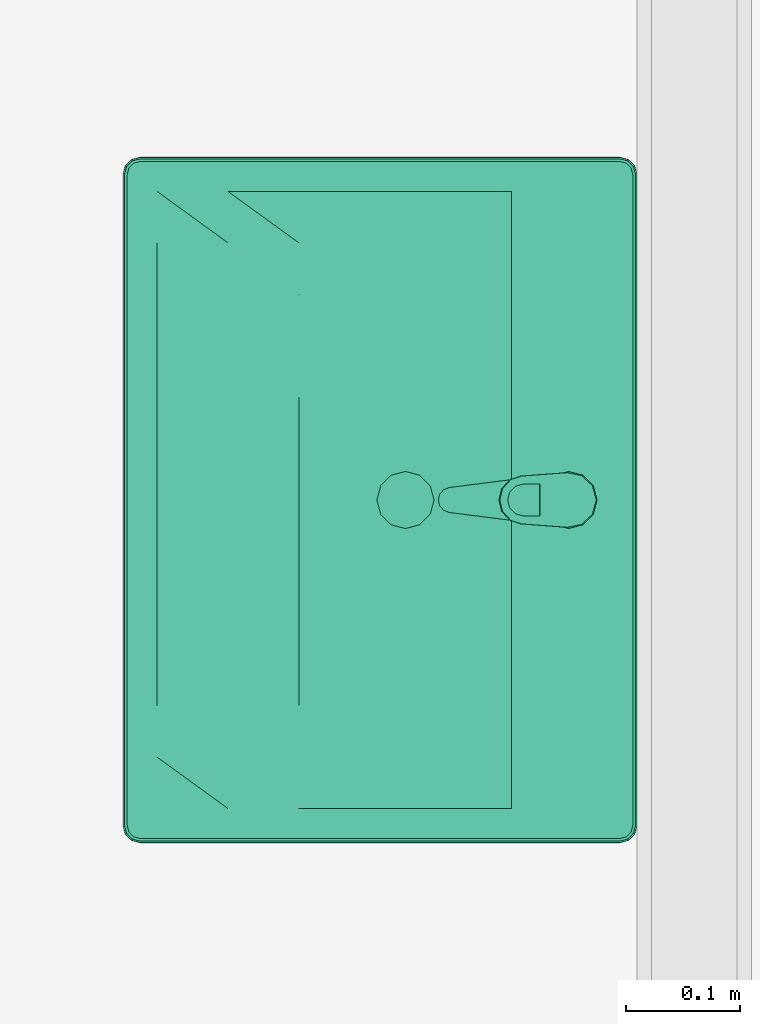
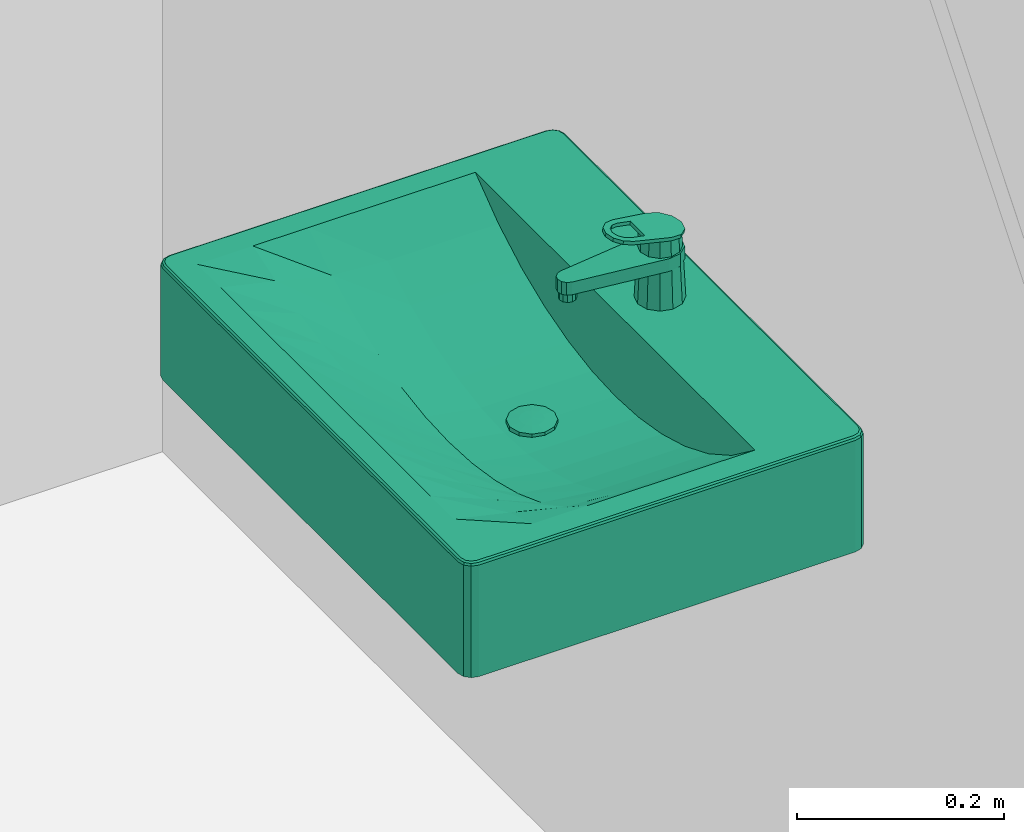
# One storey, part 96 of 117: 1 flow controller.
"""IFC2X3 building model written with IfcOpenShell, lengths in millimetres."""

import ifcopenshell
import ifcopenshell.guid

model = None  # the IFC model being written
_history = None  # IfcOwnerHistory: only IFC2X3 demands one
_inside = {}  # id of a spatial element -> (the spatial element, [elements in it])
_under = {}  # id of a project, library or spatial element -> (it, [spatial elements below it])
_declared = {}  # id of a project -> (the project, [libraries it declares])
_typed = {}  # id of a type object -> (the type object, [elements of that type])
_made_of = {}  # id of a material, layer set ... -> (it, [elements and type objects made of it])


def new_model(schema):
    """Start an empty IFC model of exactly this schema.

    Asked for "IFC4X3", IfcOpenShell would pick the latest addendum, in which some entities
    have other attributes; the version numbers below select the first issue.
    IFC2X3 requires an IfcOwnerHistory on every rooted entity: one is made here for all.
    """
    global model, _history
    if schema == "IFC4X3":
        model = ifcopenshell.file(schema_version=(4, 3, 0, 0))
    else:
        model = ifcopenshell.file(schema=schema)
    _inside.clear()
    _under.clear()
    _declared.clear()
    _typed.clear()
    _made_of.clear()
    _history = None
    if model.schema == "IFC2X3":
        org = make("IfcOrganization", Name="unknown")
        user = make(
            "IfcPersonAndOrganization",
            ThePerson=make("IfcPerson", FamilyName="unknown"),
            TheOrganization=org,
        )
        app = make(
            "IfcApplication",
            ApplicationDeveloper=org,
            Version="unknown",
            ApplicationFullName="unknown",
            ApplicationIdentifier="unknown",
        )
        _history = make(
            "IfcOwnerHistory",
            OwningUser=user,
            OwningApplication=app,
            ChangeAction="ADDED",
            CreationDate=0,
        )
    return model


def make(cls, **values):
    """One entity of the class cls with the attributes given. An attribute that is None is left unset."""
    return model.create_entity(
        cls, **{name: value for name, value in values.items() if value is not None}
    )


def entity(cls, *values):
    """Any entity or typed value of the class cls, its attributes in the order of the schema. None: left unset."""
    e = model.create_entity(cls)
    for i, value in enumerate(values):
        if value is not None:
            e[i] = value
    return e


def rooted(cls, **values):
    """An entity with a GlobalId (a new one), such as an element, a storey or a relation."""
    return make(cls, GlobalId=ifcopenshell.guid.new(), OwnerHistory=_history, **values)


def si_unit(unit_type, name, prefix=None):
    """IfcSIUnit, for example si_unit("LENGTHUNIT", "METRE", prefix="MILLI")."""
    return make("IfcSIUnit", UnitType=unit_type, Prefix=prefix, Name=name)


def converted_unit(unit_type, name, factor, base, dimensions=None, offset=None):
    """IfcConversionBasedUnit, such as the inch: factor (a typed value) times the base unit."""
    return make(
        "IfcConversionBasedUnit"
        if offset is None
        else "IfcConversionBasedUnitWithOffset",
        ConversionOffset=offset,
        Dimensions=None
        if dimensions is None
        else entity("IfcDimensionalExponents", *dimensions),
        UnitType=unit_type,
        Name=name,
        ConversionFactor=make(
            "IfcMeasureWithUnit", ValueComponent=factor, UnitComponent=base
        ),
    )


def derived_unit(unit_type, elements):
    """IfcDerivedUnit: a product of units, each with its exponent."""
    return make(
        "IfcDerivedUnit",
        Elements=[
            make("IfcDerivedUnitElement", Unit=unit, Exponent=power)
            for unit, power in elements
        ],
        UnitType=unit_type,
    )


def money_unit(currency):
    """IfcMonetaryUnit."""
    return make("IfcMonetaryUnit", Currency=currency)


def assignment(units):
    """IfcUnitAssignment: the units of a project."""
    return None if units is None else make("IfcUnitAssignment", Units=units)


def point(xyz):
    """IfcCartesianPoint."""
    return None if xyz is None else make("IfcCartesianPoint", Coordinates=xyz)


def direction(xyz):
    """IfcDirection."""
    return None if xyz is None else make("IfcDirection", DirectionRatios=xyz)


def frame(location, z_axis=None, x_axis=None):
    """IfcAxis2Placement3D, a coordinate frame: its origin and axes. An axis left out is left unset."""
    return make(
        "IfcAxis2Placement3D",
        Location=point(location),
        Axis=direction(z_axis),
        RefDirection=direction(x_axis),
    )


def origin_with_axes():
    """The frame at (0, 0, 0) with the z axis (0, 0, 1) and the x axis (1, 0, 0) written out."""
    return frame((0.0, 0.0, 0.0), z_axis=(0.0, 0.0, 1.0), x_axis=(1.0, 0.0, 0.0))


def place(relative_to, where):
    """IfcLocalPlacement: puts the frame where relative to a parent placement (None: the world)."""
    return make(
        "IfcLocalPlacement", PlacementRelTo=relative_to, RelativePlacement=where
    )


def context(
    kind, dimensions, precision=None, world=None, true_north=None, identifier=None
):
    """IfcGeometricRepresentationContext, for example the 3D "Model" context."""
    return make(
        "IfcGeometricRepresentationContext",
        ContextIdentifier=identifier,
        ContextType=kind,
        CoordinateSpaceDimension=dimensions,
        Precision=precision,
        WorldCoordinateSystem=world,
        TrueNorth=true_north,
    )


def subcontext(parent, identifier, kind, view, scale=None):
    """IfcGeometricRepresentationSubContext, for example "Body" below "Model"."""
    return make(
        "IfcGeometricRepresentationSubContext",
        ContextIdentifier=identifier,
        ContextType=kind,
        ParentContext=parent,
        TargetScale=scale,
        TargetView=view,
    )


def project(units=None, contexts=None):
    """IfcProject with its units and contexts."""
    return rooted(
        "IfcProject",
        Name="project",
        RepresentationContexts=contexts,
        UnitsInContext=assignment(units),
    )


def spatial(cls, under=None, at=None, **own):
    """A site, building, storey or space (cls), placed at a placement, below another one or the project."""
    s = rooted(cls, ObjectPlacement=at, **own)
    if under is not None:
        _under.setdefault(under.id(), (under, []))[1].append(s)
    return s


def faces_of(points, faces, orient=None, outer=None):
    """IfcFace entities. A face is a list of loops; a loop is a list of indices into points, from 0.

    orient and outer hold one flag for each loop. By default every Orientation is true, the
    first loop of a face is its IfcFaceOuterBound and the others are IfcFaceBound.
    """
    made = []
    for i, loops in enumerate(faces):
        bounds = []
        for j, loop in enumerate(loops):
            is_outer = j == 0 if outer is None else outer[i][j]
            bounds.append(
                make(
                    "IfcFaceOuterBound" if is_outer else "IfcFaceBound",
                    Bound=make("IfcPolyLoop", Polygon=[points[k] for k in loop]),
                    Orientation=True if orient is None else orient[i][j],
                )
            )
        made.append(make("IfcFace", Bounds=bounds))
    return made


def open_shell(faces, orient=None, outer=None):
    """The faces of one IfcOpenShell. surface_model builds it on its shared points."""
    return ("IfcOpenShell", faces, orient, outer)


def faceted_brep(points, faces, orient=None, outer=None, voids=None):
    """IfcFacetedBrep: a solid bounded by flat faces; with voids (closed shells), ...WithVoids."""
    shared = [point(p) for p in points]
    hull = make("IfcClosedShell", CfsFaces=faces_of(shared, faces, orient, outer))
    if voids is None:
        return make("IfcFacetedBrep", Outer=hull)
    return make(
        "IfcFacetedBrepWithVoids",
        Outer=hull,
        Voids=[
            make(cls, CfsFaces=faces_of(shared, fs, o, b)) for cls, fs, o, b in voids
        ],
    )


def surface_model(cls, points, shells):
    """IfcFaceBasedSurfaceModel or IfcShellBasedSurfaceModel (cls): surfaces that need not close."""
    shared = [point(p) for p in points]
    made = [make(c, CfsFaces=faces_of(shared, fs, o, b)) for c, fs, o, b in shells]
    if cls == "IfcFaceBasedSurfaceModel":
        return make(cls, FbsmFaces=made)
    return make(cls, SbsmBoundary=made)


def shape(context_of_items, identifier, shape_type, items):
    """IfcShapeRepresentation: the items that make up one representation, for example the "Body"."""
    return make(
        "IfcShapeRepresentation",
        ContextOfItems=context_of_items,
        RepresentationIdentifier=identifier,
        RepresentationType=shape_type,
        Items=items,
    )


def source(mapping_origin, context_of_items, identifier, shape_type, items):
    """IfcRepresentationMap: a shape defined once, which mapped items show again and again."""
    return make(
        "IfcRepresentationMap",
        MappingOrigin=mapping_origin,
        MappedRepresentation=shape(context_of_items, identifier, shape_type, items),
    )


def transform(
    local_origin,
    x_axis=None,
    y_axis=None,
    z_axis=None,
    scale=None,
    scale2=None,
    scale3=None,
    uniform=True,
):
    """IfcCartesianTransformationOperator3D, or its non-uniform kind. x_axis, y_axis, z_axis: its Axis1, 2, 3."""
    if uniform:
        return make(
            "IfcCartesianTransformationOperator3D",
            Axis1=direction(x_axis),
            Axis2=direction(y_axis),
            LocalOrigin=point(local_origin),
            Scale=scale,
            Axis3=direction(z_axis),
        )
    return make(
        "IfcCartesianTransformationOperator3DnonUniform",
        Axis1=direction(x_axis),
        Axis2=direction(y_axis),
        LocalOrigin=point(local_origin),
        Scale=scale,
        Axis3=direction(z_axis),
        Scale2=scale2,
        Scale3=scale3,
    )


def mapped(mapping_source, mapping_target):
    """IfcMappedItem: shows the shape of a source again, moved by a transform."""
    return make(
        "IfcMappedItem", MappingSource=mapping_source, MappingTarget=mapping_target
    )


def made_of(thing, what):
    """Note that an element or type object is made of a material, layer set ...; save() writes the relation."""
    if what is not None:
        _made_of.setdefault(what.id(), (what, []))[1].append(thing)
    return thing


def type_object(cls, material=None, **own):
    """A type object (cls), such as IfcWallType, which elements share."""
    return made_of(rooted(cls, **own), material)


def type_shapes(of_type, sources):
    """Give a type object the sources (RepresentationMaps) that its elements show as mapped items."""
    of_type.RepresentationMaps = sources


def element(
    cls,
    number,
    at=None,
    inside=None,
    cuts=None,
    type_object=None,
    material=None,
    context=None,
    identifier="Body",
    shape_type=None,
    held_by="IfcProductDefinitionShape",
    body=None,
    shapes=None,
    **own,
):
    """One element of the class cls, such as IfcWall. Its Tag is "e" and its number.

    at: its placement. inside: the storey or other place that contains it. cuts: it is an
    opening in that element (IfcRelVoidsElement). A single representation is given by context,
    identifier, shape_type and body (its items); several are given by shapes. held_by: the class
    of the entity that holds the representations. save() writes the other relations.
    """
    e = rooted(cls, Tag="e%d" % number, ObjectPlacement=at, **own)
    if body is not None:
        shapes = [shape(context, identifier, shape_type, body)]
    if shapes is not None:
        e.Representation = make(held_by, Representations=shapes)
    if inside is not None:
        _inside.setdefault(inside.id(), (inside, []))[1].append(e)
    if cuts is not None:
        rooted(
            "IfcRelVoidsElement", RelatingBuildingElement=cuts, RelatedOpeningElement=e
        )
    if type_object is not None:
        _typed.setdefault(type_object.id(), (type_object, []))[1].append(e)
    return made_of(e, material)


def aggregate(whole, parts):
    """IfcRelAggregates: a whole, such as a stair, and the parts it consists of."""
    return rooted("IfcRelAggregates", RelatingObject=whole, RelatedObjects=parts)


def save(model, path):
    """Write the relations noted so far, then the file.

    IfcRelAggregates (storeys below a building ...), IfcRelContainedInSpatialStructure (elements
    in a storey), IfcRelDefinesByType, IfcRelAssociatesMaterial and IfcRelDeclares: one each for
    every whole, place, type object, material and project.
    """
    for whole, parts in _under.values():
        aggregate(whole, parts)
    for where, things in _inside.values():
        rooted(
            "IfcRelContainedInSpatialStructure",
            RelatedElements=things,
            RelatingStructure=where,
        )
    for kind, things in _typed.values():
        rooted("IfcRelDefinesByType", RelatedObjects=things, RelatingType=kind)
    for what, things in _made_of.values():
        rooted("IfcRelAssociatesMaterial", RelatedObjects=things, RelatingMaterial=what)
    for by, libraries in _declared.values():
        rooted("IfcRelDeclares", RelatingContext=by, RelatedDefinitions=libraries)
    model.write(path)


model = new_model("IFC2X3")

# Units and contexts
model_context = context("Model", 3, precision=0.01, world=origin_with_axes(), true_north=direction((0.0, 1.0)))
body_context = subcontext(model_context, "Body", "Model", "MODEL_VIEW")
ifc_project = project(units=[si_unit("LENGTHUNIT", "METRE", prefix="MILLI"), si_unit("AREAUNIT", "SQUARE_METRE"), si_unit("VOLUMEUNIT", "CUBIC_METRE"), converted_unit("PLANEANGLEUNIT", "DEGREE", entity("IfcPlaneAngleMeasure", 0.0174532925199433), si_unit("PLANEANGLEUNIT", "RADIAN"), dimensions=[0, 0, 0, 0, 0, 0, 0]), money_unit("EUR"), converted_unit("TIMEUNIT", "Year", entity("IfcTimeMeasure", 31557600.0), si_unit("TIMEUNIT", "SECOND"), dimensions=[0, 0, 1, 0, 0, 0, 0]), si_unit("MASSUNIT", "GRAM", prefix="KILO"), si_unit("THERMODYNAMICTEMPERATUREUNIT", "DEGREE_CELSIUS"), si_unit("LUMINOUSINTENSITYUNIT", "LUMEN"), si_unit("ENERGYUNIT", "JOULE", prefix="MEGA"), derived_unit("THERMALCONDUCTANCEUNIT", [(si_unit("POWERUNIT", "WATT"), 1), (si_unit("LENGTHUNIT", "METRE"), -1), (si_unit("THERMODYNAMICTEMPERATUREUNIT", "KELVIN"), -1)]), derived_unit("SPECIFICHEATCAPACITYUNIT", [(si_unit("ENERGYUNIT", "JOULE"), 1), (si_unit("MASSUNIT", "GRAM", prefix="KILO"), -1), (si_unit("THERMODYNAMICTEMPERATUREUNIT", "KELVIN"), -1)]), derived_unit("MASSDENSITYUNIT", [(si_unit("MASSUNIT", "GRAM", prefix="KILO"), 1), (si_unit("VOLUMEUNIT", "CUBIC_METRE"), -1)])], contexts=[model_context])

# Site, building, storey
site_placement = place(None, origin_with_axes())
site = spatial("IfcSite", under=ifc_project, at=site_placement, Name="Site", CompositionType="ELEMENT")
building_placement = place(site_placement, origin_with_axes())
building = spatial("IfcBuilding", under=site, at=building_placement, Name="Naam gebouw", CompositionType="ELEMENT")
storey_placement = place(building_placement, frame((0.0, 0.0, 4150.0), z_axis=(0.0, 0.0, 1.0), x_axis=(1.0, 0.0, 0.0)))
storey = spatial("IfcBuildingStorey", under=building, at=storey_placement, Name="1e verdieping N", CompositionType="ELEMENT", Elevation=4150.0)

# Flow controller
valve_type = type_object("IfcValveType", Name="Wasbak 27", PredefinedType="NOTDEFINED")
shared_shape = source(origin_with_axes(), body_context, "Body", "SurfaceModel", [
    faceted_brep([(285.0, -450.0, 865.0), (-285.0, -450.0, 865.0), (-292.5, -447.9903810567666, 865.0), (-297.9903810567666, -442.5, 865.0), (-300.0, -435.0, 865.0), (-300.0, -15.00000000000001, 865.0), (-297.9903810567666, -7.500000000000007, 865.0), (-292.5, -2.009618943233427, 865.0), (-285.0, 0.0, 865.0), (285.0, 0.0, 865.0), (292.5, -2.009618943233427, 865.0), (297.9903810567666, -7.500000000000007, 865.0), (300.0, -15.00000000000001, 865.0), (300.0, -435.0, 865.0), (297.9903810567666, -442.5, 865.0), (292.5, -447.9903810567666, 865.0), (-270.0, -420.0000000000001, 865.0), (270.0, -420.0000000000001, 865.0), (270.0, -110.0, 865.0), (-270.0, -110.0, 865.0), (284.9999995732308, -450.0000003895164, 995.0), (-284.9999997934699, -450.0000003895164, 995.0), (-292.5000000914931, -447.9903813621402, 995.0), (-297.9903813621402, -442.5000000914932, 995.0), (-300.0000003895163, -434.99999979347, 995.0), (-300.0000003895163, -14.99999986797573, 995.0), (-297.9903813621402, -7.499999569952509, 995.0), (-292.5000000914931, -2.009619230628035, 995.0), (-284.9999997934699, -2.032518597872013e-07, 995.0), (284.9999995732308, -2.032518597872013e-07, 995.0), (292.499999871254, -2.009619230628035, 995.0), (297.990381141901, -7.499999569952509, 995.0), (300.0000001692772, -14.99999986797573, 995.0), (300.0000001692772, -434.99999979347, 995.0), (297.990381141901, -442.5000000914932, 995.0), (292.499999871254, -447.9903813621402, 995.0), (-270.0, -420.0000000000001, 999.9999996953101), (270.0, -420.0000000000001, 999.9999996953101), (270.0, -110.0, 999.9999996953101), (-270.0, -110.0, 999.9999996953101), (284.9775698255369, -449.8296295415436, 996.2940952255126), (-284.9775700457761, -449.8296295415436, 996.2940952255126), (-292.4118096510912, -447.8376310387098, 996.2940952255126), (-297.8376310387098, -442.4118096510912, 996.2940952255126), (-299.8296295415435, -434.9775700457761, 996.2940952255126), (-299.8296295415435, -15.02242961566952, 996.2940952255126), (-297.8376310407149, -7.588190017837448, 996.2940952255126), (-292.4118096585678, -2.16236955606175, 996.2940952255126), (-284.9775700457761, -0.1703710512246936, 996.2940952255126), (284.9775698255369, -0.1703710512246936, 996.2940952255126), (292.4118094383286, -2.16236955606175, 996.2940952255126), (297.8376308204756, -7.588190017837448, 996.2940952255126), (299.8296293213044, -15.02242961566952, 996.2940952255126), (299.8296293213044, -434.9775700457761, 996.2940952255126), (297.8376308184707, -442.4118096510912, 996.2940952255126), (292.411809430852, -447.8376310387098, 996.2940952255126), (-284.3417376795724, -4.999997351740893, 999.9999996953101), (-289.911811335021, -6.492494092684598, 999.9999996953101), (-293.5075066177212, -10.08818876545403, 999.9999996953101), (-295.0000032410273, -15.6582619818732, 999.9999996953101), (-295.0000032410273, -434.3417376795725, 999.9999996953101), (-293.5075065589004, -439.9118111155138, 999.9999996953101), (-289.9118111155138, -443.5075065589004, 999.9999996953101), (-284.3417376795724, -445.0000032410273, 999.9999996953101), (284.3417374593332, -445.0000032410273, 999.9999996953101), (289.9118108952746, -443.5075065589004, 999.9999996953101), (293.5075063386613, -439.9118111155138, 999.9999996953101), (295.0000030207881, -434.3417376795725, 999.9999996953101), (295.0000030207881, -15.6582619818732, 999.9999996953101), (293.507506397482, -10.08818876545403, 999.9999996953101), (289.9118111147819, -6.492494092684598, 999.9999996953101), (284.3417374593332, -4.999997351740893, 999.9999996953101), (284.8071989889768, -448.5355345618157, 998.5355339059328), (-284.8071992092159, -448.5355345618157, 998.5355339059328), (-291.7419367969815, -446.6773772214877, 998.5355339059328), (-296.6773772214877, -441.7419367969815, 998.5355339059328), (-298.5355345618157, -434.807199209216, 998.5355339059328), (-298.5355345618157, -15.1928004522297, 998.5355339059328), (-296.6773772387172, -8.258062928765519, 998.5355339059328), (-291.7419368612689, -3.322623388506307, 998.5355339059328), (-284.8071992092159, -1.464466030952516, 998.5355339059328), (284.8071989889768, -1.464466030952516, 998.5355339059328), (291.7419366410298, -3.322623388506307, 998.5355339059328), (296.677377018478, -8.258062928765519, 998.5355339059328), (298.5355343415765, -15.1928004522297, 998.5355339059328), (298.5355343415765, -434.807199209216, 998.5355339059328), (296.6773770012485, -441.7419367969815, 998.5355339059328), (291.7419365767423, -446.6773772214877, 998.5355339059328), (-290.5816830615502, -5.332242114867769, 999.8296291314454), (-284.5121082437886, -3.705904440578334, 999.8296291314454), (-294.6677585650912, -9.418316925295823, 999.8296291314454), (-296.2940961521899, -15.487891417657, 999.8296291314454), (-296.2940961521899, -434.5121082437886, 999.8296291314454), (-294.6677585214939, -440.5816828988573, 999.8296291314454), (-290.5816828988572, -444.6677585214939, 999.8296291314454), (-284.5121082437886, -446.2940961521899, 999.8296291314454), (284.5121080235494, -446.2940961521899, 999.8296291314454), (290.5816826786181, -444.6677585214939, 999.8296291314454), (294.6677583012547, -440.5816828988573, 999.8296291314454), (296.2940959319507, -434.5121082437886, 999.8296291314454), (296.2940959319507, -15.487891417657, 999.8296291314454), (294.667758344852, -9.418316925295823, 999.8296291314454), (290.581682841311, -5.332242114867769, 999.8296291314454), (284.5121080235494, -3.705904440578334, 999.8296291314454)], [[[0, 1, 2, 3, 4, 5, 6, 7, 8, 9, 10, 11, 12, 13, 14, 15], [16, 17, 18, 19]], [[0, 20, 21, 1]], [[1, 21, 22, 2]], [[2, 22, 23, 3]], [[3, 23, 24, 4]], [[4, 24, 25, 5]], [[5, 25, 26, 6]], [[6, 26, 27, 7]], [[7, 27, 28, 8]], [[8, 28, 29, 9]], [[9, 29, 30, 10]], [[10, 30, 31, 11]], [[11, 31, 32, 12]], [[12, 32, 33, 13]], [[13, 33, 34, 14]], [[14, 34, 35, 15]], [[15, 35, 20, 0]], [[36, 37, 17, 16]], [[37, 38, 18, 17]], [[38, 39, 19, 18]], [[39, 36, 16, 19]], [[20, 40, 41, 21]], [[21, 41, 42, 22]], [[22, 42, 43, 23]], [[23, 43, 44, 24]], [[24, 44, 45, 25]], [[25, 45, 46, 26]], [[26, 46, 47, 27]], [[27, 47, 48, 28]], [[28, 48, 49, 29]], [[29, 49, 50, 30]], [[30, 50, 51, 31]], [[31, 51, 52, 32]], [[32, 52, 53, 33]], [[33, 53, 54, 34]], [[34, 54, 55, 35]], [[35, 55, 40, 20]], [[56, 57, 58, 59, 60, 61, 62, 63, 64, 65, 66, 67, 68, 69, 70, 71], [36, 39, 38, 37]], [[40, 72, 73, 41]], [[41, 73, 74, 42]], [[42, 74, 75, 43]], [[43, 75, 76, 44]], [[44, 76, 77, 45]], [[45, 77, 78, 46]], [[46, 78, 79, 47]], [[47, 79, 80, 48]], [[48, 80, 81, 49]], [[49, 81, 82, 50]], [[50, 82, 83, 51]], [[51, 83, 84, 52]], [[52, 84, 85, 53]], [[53, 85, 86, 54]], [[54, 86, 87, 55]], [[55, 87, 72, 40]], [[88, 57, 56, 89]], [[90, 58, 57, 88]], [[91, 59, 58, 90]], [[92, 60, 59, 91]], [[93, 61, 60, 92]], [[94, 62, 61, 93]], [[95, 63, 62, 94]], [[96, 64, 63, 95]], [[97, 65, 64, 96]], [[98, 66, 65, 97]], [[99, 67, 66, 98]], [[100, 68, 67, 99]], [[101, 69, 68, 100]], [[102, 70, 69, 101]], [[103, 71, 70, 102]], [[89, 56, 71, 103]], [[72, 96, 95, 73]], [[73, 95, 94, 74]], [[74, 94, 93, 75]], [[75, 93, 92, 76]], [[76, 92, 91, 77]], [[77, 91, 90, 78]], [[78, 90, 88, 79]], [[79, 88, 89, 80]], [[80, 89, 103, 81]], [[81, 103, 102, 82]], [[82, 102, 101, 83]], [[83, 101, 100, 84]], [[84, 100, 99, 85]], [[85, 99, 98, 86]], [[86, 98, 97, 87]], [[87, 97, 96, 72]]]),
    faceted_brep([(-270.0, -420.0000000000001, 865.0), (-270.0, -110.0, 865.0), (270.0, -110.0, 865.0), (270.0, -420.0000000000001, 865.0), (12.49999999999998, -224.368635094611, 865.0), (21.65063509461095, -215.218, 865.0), (25.0, -202.718, 865.0), (21.65063509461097, -190.218, 865.0), (12.50000000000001, -181.067364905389, 865.0), (0.0, -177.718, 865.0), (-12.49999999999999, -181.067364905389, 865.0), (-21.65063509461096, -190.218, 865.0), (-25.0, -202.718, 865.0), (-21.65063509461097, -215.218, 865.0), (-12.50000000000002, -224.368635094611, 865.0), (0.0, -227.718, 865.0), (-270.0, -296.0000000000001, 1000.0), (-270.0, -234.0, 1000.0), (-270.0, -172.0, 1000.0), (-270.0, -110.0, 1000.0), (-270.0, -420.0000000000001, 1000.0), (-270.0, -358.0000000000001, 1000.0), (135.0, -110.0, 922.6004593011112), (180.0000000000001, -110.0, 941.1231796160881), (225.0, -110.0, 966.3832810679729), (270.0, -110.0, 1000.0), (-225.0, -110.0, 966.3832810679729), (-180.0, -110.0, 941.1231796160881), (-135.0, -110.0, 922.6004593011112), (-90.0, -110.0, 909.8887668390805), (-44.99999999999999, -110.0, 902.449942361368), (0.0, -110.0, 900.0), (45.00000000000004, -110.0, 902.449942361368), (90.00000000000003, -110.0, 909.8887668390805), (270.0, -234.0, 1000.0), (270.0, -296.0000000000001, 999.9999999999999), (270.0, -358.0000000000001, 1000.0), (270.0, -420.0000000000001, 1000.0), (270.0, -172.0, 1000.0), (-135.0, -420.0000000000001, 1000.0), (-180.0, -420.0000000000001, 1000.0), (-225.0, -420.0000000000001, 1000.0), (225.0, -420.0000000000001, 1000.0), (180.0000000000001, -420.0000000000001, 1000.0), (135.0, -420.0000000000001, 1000.0), (90.00000000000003, -420.0000000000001, 1000.0), (45.00000000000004, -420.0000000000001, 1000.0), (0.0, -420.0000000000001, 1000.0), (-44.99999999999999, -420.0000000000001, 1000.0), (-90.0, -420.0000000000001, 1000.0), (12.49999999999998, -224.368635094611, 900.6805395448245), (21.65063509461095, -215.218, 901.1787290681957), (25.0, -202.718, 901.3610790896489), (21.65063509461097, -190.218, 901.1787290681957), (12.50000000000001, -181.067364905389, 900.6805395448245), (0.0, -177.718, 900.0), (-12.49999999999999, -181.067364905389, 900.6805395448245), (-21.65063509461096, -190.218, 901.1787290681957), (-25.0, -202.718, 901.3610790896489), (-21.65063509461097, -215.218, 901.1787290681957), (-12.50000000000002, -224.368635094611, 900.6805395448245), (0.0, -227.718, 900.0), (-225.0, -234.0, 966.3832810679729), (-225.0, -172.0, 966.3832810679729), (-225.0, -358.0000000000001, 985.9168845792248), (-225.0, -296.0000000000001, 970.8433791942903), (180.0000000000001, -172.0, 941.1231796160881), (135.0, -172.0, 922.6004593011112), (225.0, -172.0, 966.3832810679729), (-180.0, -172.0, 941.1231796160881), (-135.0, -172.0, 922.6004593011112), (-90.0, -172.0, 909.8887668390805), (-44.99999999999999, -172.0, 902.449942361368), (0.0, -172.0, 900.0), (45.00000000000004, -172.0, 902.449942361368), (90.00000000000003, -172.0, 909.8887668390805), (225.0, -296.0000000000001, 970.8433791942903), (225.0, -358.0000000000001, 985.9168845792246), (225.0, -234.0, 966.3832810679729), (-135.0, -358.0000000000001, 965.8650987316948), (-180.0, -358.0000000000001, 974.5766150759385), (180.0000000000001, -358.0000000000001, 974.5766150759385), (135.0, -358.0000000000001, 965.8650987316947), (90.00000000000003, -358.0000000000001, 959.6989661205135), (45.00000000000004, -358.0000000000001, 956.0213334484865), (0.0, -358.0000000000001, 954.7990813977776), (-44.99999999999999, -358.0000000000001, 956.0213334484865), (-90.0, -358.0000000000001, 959.6989661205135), (0.0, -234.0, 900.0), (45.00000000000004, -234.0, 902.449942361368), (-44.99999999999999, -234.0, 902.449942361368), (-180.0, -234.0, 941.1231796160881), (180.0000000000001, -234.0, 941.1231796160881), (135.0, -234.0, 922.6004593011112), (-135.0, -234.0, 922.6004593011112), (-90.0, -234.0, 909.8887668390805), (90.00000000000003, -234.0, 909.8887668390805), (0.0, -296.0000000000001, 911.4604006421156), (-44.99999999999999, -296.0000000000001, 913.6864730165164), (-180.0, -296.0000000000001, 948.4946543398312), (135.0, -296.0000000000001, 931.904485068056), (180.0000000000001, -296.0000000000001, 948.4946543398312), (-135.0, -296.0000000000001, 931.904485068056), (-90.0, -296.0000000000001, 920.4312036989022), (45.00000000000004, -296.0000000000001, 913.6864730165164), (90.00000000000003, -296.0000000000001, 920.4312036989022)], [[[0, 1, 2, 3], [4, 5, 6, 7, 8, 9, 10, 11, 12, 13, 14, 15]], [[16, 17, 18, 19, 1, 0, 20, 21]], [[22, 23, 24, 25, 2, 1, 19, 26, 27, 28, 29, 30, 31, 32, 33]], [[34, 35, 36, 37, 3, 2, 25, 38]], [[39, 40, 41, 20, 0, 3, 37, 42, 43, 44, 45, 46, 47, 48, 49]], [[50, 51, 5, 4]], [[51, 52, 6, 5]], [[52, 53, 7, 6]], [[53, 54, 8, 7]], [[54, 55, 9, 8]], [[55, 56, 10, 9]], [[56, 57, 11, 10]], [[57, 58, 12, 11]], [[58, 59, 13, 12]], [[59, 60, 14, 13]], [[60, 61, 15, 14]], [[61, 50, 4, 15]], [[16, 62, 17]], [[62, 63, 18, 17]], [[63, 26, 19, 18]], [[20, 64, 21]], [[21, 65, 16]], [[66, 23, 22, 67]], [[68, 24, 23, 66]], [[38, 25, 24, 68]], [[69, 27, 26, 63]], [[70, 28, 27, 69]], [[71, 29, 28, 70]], [[72, 30, 29, 71]], [[73, 31, 30, 72]], [[74, 32, 31, 73]], [[75, 33, 32, 74]], [[67, 22, 33, 75]], [[76, 35, 34]], [[77, 36, 35]], [[42, 37, 36]], [[34, 38, 68, 78]], [[40, 39, 79]], [[41, 40, 80]], [[20, 41, 64]], [[43, 42, 77]], [[44, 43, 81]], [[45, 44, 82]], [[46, 45, 83]], [[47, 46, 84]], [[48, 47, 85]], [[49, 48, 86]], [[39, 49, 87]], [[54, 53, 52, 51, 50, 61, 88, 89, 74, 73, 55]], [[56, 55, 73, 72, 90, 88, 61, 60, 59, 58, 57]], [[16, 65, 62]], [[91, 69, 63, 62]], [[21, 64, 65]], [[92, 66, 67, 93]], [[78, 68, 66, 92]], [[94, 70, 69, 91]], [[95, 71, 70, 94]], [[90, 72, 71, 95]], [[96, 75, 74, 89]], [[93, 67, 75, 96]], [[77, 35, 76]], [[76, 34, 78]], [[42, 36, 77]], [[39, 87, 79]], [[40, 79, 80]], [[41, 80, 64]], [[43, 77, 81]], [[44, 81, 82]], [[45, 82, 83]], [[46, 83, 84]], [[47, 84, 85]], [[48, 85, 86]], [[49, 86, 87]], [[97, 89, 88]], [[98, 88, 90]], [[65, 91, 62]], [[64, 99, 65]], [[100, 92, 93]], [[101, 78, 92]], [[99, 94, 91]], [[102, 95, 94]], [[103, 90, 95]], [[104, 96, 89]], [[105, 93, 96]], [[81, 77, 76]], [[101, 76, 78]], [[79, 87, 103]], [[80, 79, 102]], [[64, 80, 99]], [[82, 81, 101]], [[83, 82, 100]], [[84, 83, 105]], [[85, 84, 104]], [[86, 85, 97]], [[87, 86, 98]], [[97, 104, 89]], [[98, 97, 88]], [[103, 98, 90]], [[65, 99, 91]], [[100, 101, 92]], [[105, 100, 93]], [[99, 102, 94]], [[102, 103, 95]], [[104, 105, 96]], [[81, 76, 101]], [[87, 98, 103]], [[79, 103, 102]], [[80, 102, 99]], [[82, 101, 100]], [[83, 100, 105]], [[84, 105, 104]], [[85, 104, 97]], [[86, 97, 98]]]),
    faceted_brep([(21.65063509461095, -215.218, 900.0), (12.49999999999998, -224.368635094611, 900.0), (0.0, -227.718, 900.0), (-12.50000000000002, -224.368635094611, 900.0), (-21.65063509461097, -215.218, 900.0), (-25.0, -202.718, 900.0), (-21.65063509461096, -190.218, 900.0), (-12.49999999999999, -181.067364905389, 900.0), (0.0, -177.718, 900.0), (12.50000000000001, -181.067364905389, 900.0), (21.65063509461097, -190.218, 900.0), (25.0, -202.718, 900.0), (21.65063509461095, -215.218, 905.0), (12.49999999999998, -224.368635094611, 905.0), (0.0, -227.718, 905.0), (-12.50000000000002, -224.368635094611, 905.0), (-21.65063509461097, -215.218, 905.0), (-25.0, -202.718, 905.0), (-21.65063509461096, -190.218, 905.0), (-12.49999999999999, -181.067364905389, 905.0), (0.0, -177.718, 905.0), (12.50000000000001, -181.067364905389, 905.0), (21.65063509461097, -190.218, 905.0), (25.0, -202.718, 905.0)], [[[0, 1, 2, 3, 4, 5, 6, 7, 8, 9, 10, 11]], [[1, 0, 12, 13]], [[2, 1, 13, 14]], [[3, 2, 14, 15]], [[4, 3, 15, 16]], [[5, 4, 16, 17]], [[6, 5, 17, 18]], [[7, 6, 18, 19]], [[8, 7, 19, 20]], [[9, 8, 20, 21]], [[10, 9, 21, 22]], [[11, 10, 22, 23]], [[0, 11, 23, 12]], [[12, 23, 22, 21, 20, 19, 18, 17, 16, 15, 14, 13]]]),
    surface_model("IfcShellBasedSurfaceModel", [(0.0, -202.718, 907.0), (0.0, -190.09609443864, 906.4975737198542), (-6.310952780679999, -191.7871091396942, 906.4975737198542), (6.310952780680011, -191.7871091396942, 906.4975737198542), (0.0, -177.718, 905.0), (-12.5, -181.067364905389, 905.0), (-10.93089086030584, -196.40704721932, 906.4975737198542), (10.93089086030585, -196.40704721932, 906.4975737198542), (12.50000000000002, -181.067364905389, 905.0), (-21.65063509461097, -190.218, 905.0), (-12.62190556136, -202.718, 906.4975737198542), (12.62190556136, -202.718, 906.4975737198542), (21.65063509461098, -190.218, 905.0), (-25.0, -202.718, 905.0), (-10.93089086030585, -209.02895278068, 906.4975737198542), (10.93089086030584, -209.02895278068, 906.4975737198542), (25.0, -202.718, 905.0), (-21.65063509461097, -215.218, 905.0), (-6.310952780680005, -213.6488908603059, 906.4975737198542), (6.310952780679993, -213.6488908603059, 906.4975737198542), (21.65063509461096, -215.218, 905.0), (-12.50000000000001, -224.368635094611, 905.0), (0.0, -215.33990556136, 906.4975737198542), (12.49999999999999, -224.368635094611, 905.0), (0.0, -227.718, 905.0)], [open_shell([[[0, 1, 2]], [[0, 3, 1]], [[2, 1, 4, 5]], [[0, 2, 6]], [[0, 7, 3]], [[1, 3, 8, 4]], [[6, 2, 5, 9]], [[0, 6, 10]], [[0, 11, 7]], [[3, 7, 12, 8]], [[10, 6, 9, 13]], [[0, 10, 14]], [[0, 15, 11]], [[7, 11, 16, 12]], [[14, 10, 13, 17]], [[0, 14, 18]], [[0, 19, 15]], [[11, 15, 20, 16]], [[18, 14, 17, 21]], [[0, 18, 22]], [[0, 22, 19]], [[15, 19, 23, 20]], [[22, 18, 21, 24]], [[19, 22, 24, 23]]])]),
    faceted_brep([(12.50000000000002, -38.34936490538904, 1000.0), (0.0, -34.99999999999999, 1000.0), (0.0, -38.79807692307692, 1075.961538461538), (10.587322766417, -41.66221905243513, 1076.507089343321), (21.65063509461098, -47.50000000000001, 1000.0), (25.0, -60.00000000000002, 1000.0), (21.65063509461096, -72.50000000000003, 1000.0), (12.49999999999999, -81.65063509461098, 1000.0), (0.0, -84.99999999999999, 1000.0), (-12.50000000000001, -81.65063509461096, 1000.0), (-21.65063509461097, -72.5, 1000.0), (-25.0, -59.99999999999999, 1000.0), (-21.65063509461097, -47.49999999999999, 1000.0), (-12.5, -38.34936490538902, 1000.0), (-10.58732276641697, -41.66221905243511, 1076.507089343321), (-18.27355038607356, -49.44976076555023, 1077.99043062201), (-21.0, -59.99999999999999, 1080.0), (-18.10034137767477, -70.45023696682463, 1081.990521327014), (-10.41410590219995, -78.0377605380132, 1083.435763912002), (0.0, -80.80188679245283, 1083.962264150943), (10.41410590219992, -78.03776053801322, 1083.435763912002), (18.10034137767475, -70.45023696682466, 1081.990521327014), (21.0, -60.00000000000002, 1080.0), (18.27355038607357, -49.44976076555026, 1077.99043062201)], [[[0, 1, 2, 3]], [[0, 4, 5, 6, 7, 8, 9, 10, 11, 12, 13, 1]], [[1, 13, 14, 2]], [[3, 2, 14, 15, 16, 17, 18, 19, 20, 21, 22, 23]], [[4, 0, 3, 23]], [[5, 4, 23, 22]], [[6, 5, 22, 21]], [[7, 6, 21, 20]], [[8, 7, 20, 19]], [[9, 8, 19, 18]], [[10, 9, 18, 17]], [[11, 10, 17, 16]], [[12, 11, 16, 15]], [[13, 12, 15, 14]]]),
    faceted_brep([(9.000000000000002, -163.0, 1035.0), (7.794228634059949, -158.5, 1035.0), (7.794228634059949, -158.5, 1045.0), (9.000000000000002, -163.0, 1045.0), (7.794228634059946, -167.5, 1035.0), (4.499999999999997, -170.79422863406, 1035.0), (0.0, -172.0, 1035.0), (-4.500000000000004, -170.79422863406, 1035.0), (-7.794228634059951, -167.5, 1035.0), (-9.000000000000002, -163.0, 1035.0), (-7.794228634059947, -158.5, 1035.0), (-4.499999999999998, -155.2057713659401, 1035.0), (0.0, -154.0, 1035.0), (4.500000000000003, -155.2057713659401, 1035.0), (4.500000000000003, -155.2057713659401, 1045.0), (0.0, -154.0, 1045.0), (-4.499999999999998, -155.2057713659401, 1045.0), (-7.794228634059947, -158.5, 1045.0), (-9.000000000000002, -163.0, 1045.0), (-7.794228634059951, -167.5, 1045.0), (-4.500000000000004, -170.79422863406, 1045.0), (0.0, -172.0, 1045.0), (4.499999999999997, -170.79422863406, 1045.0), (7.794228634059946, -167.5, 1045.0)], [[[0, 1, 2, 3]], [[0, 4, 5, 6, 7, 8, 9, 10, 11, 12, 13, 1]], [[1, 13, 14, 2]], [[3, 2, 14, 15, 16, 17, 18, 19, 20, 21, 22, 23]], [[4, 0, 3, 23]], [[5, 4, 23, 22]], [[6, 5, 22, 21]], [[7, 6, 21, 20]], [[8, 7, 20, 19]], [[9, 8, 19, 18]], [[10, 9, 18, 17]], [[11, 10, 17, 16]], [[12, 11, 16, 15]], [[13, 12, 15, 14]]]),
    faceted_brep([(-12.87171762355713, -39.74369617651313, 1060.0), (-21.72780530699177, -49.80679463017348, 1060.0), (-23.8054, -63.04989999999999, 1060.0), (-10.9119908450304, -164.3883719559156, 1060.0), (-9.02887546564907, -169.2831941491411, 1060.0), (-5.093324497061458, -172.7497264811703, 1060.0), (3.626798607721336e-05, -173.9999600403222, 1060.0), (5.093388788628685, -172.7496928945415, 1060.0), (9.02891689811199, -169.2831346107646, 1060.0), (10.912, -164.3883, 1060.0), (23.80539974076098, -63.04990202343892, 1060.0), (21.72780617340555, -49.80679647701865, 1060.0), (12.87171934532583, -39.74369727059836, 1060.0), (1.019988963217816e-06, -36.00002168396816, 1060.0), (11.00000000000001, -40.94744111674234, 1060.0), (19.05255888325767, -48.99999999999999, 1060.0), (22.00000000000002, -60.0, 1060.0), (19.05255888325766, -71.00000000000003, 1060.0), (10.99999999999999, -79.05255888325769, 1060.0), (0.0, -82.0, 1060.0), (-11.00000000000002, -79.05255888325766, 1060.0), (-19.05255888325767, -70.99999999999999, 1060.0), (-22.00000000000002, -59.99999999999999, 1060.0), (-19.05255888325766, -48.99999999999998, 1060.0), (-11.0, -40.94744111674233, 1060.0), (0.0, -37.99999999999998, 1060.0), (-21.72780530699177, -49.80679463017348, 1045.0), (-12.87171762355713, -39.74369617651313, 1045.0), (-23.8054, -63.04989999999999, 1045.0), (-10.9119908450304, -164.3883719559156, 1045.0), (-9.02887546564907, -169.2831941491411, 1045.0), (-5.093324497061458, -172.7497264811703, 1045.0), (3.626798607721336e-05, -173.9999600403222, 1045.0), (5.093388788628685, -172.7496928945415, 1045.0), (9.02891689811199, -169.2831346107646, 1045.0), (10.912, -164.3883, 1045.0), (23.80539974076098, -63.04990202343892, 1045.0), (21.72780617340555, -49.80679647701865, 1045.0), (12.87171934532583, -39.74369727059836, 1045.0), (1.019988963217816e-06, -36.00002168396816, 1045.0), (11.37500000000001, -40.297922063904, 1045.0), (19.70207793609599, -48.62499999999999, 1045.0), (22.75000000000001, -60.0, 1045.0), (19.70207793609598, -71.37500000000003, 1045.0), (11.37499999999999, -79.702077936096, 1045.0), (0.0, -82.75, 1045.0), (-11.37500000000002, -79.70207793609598, 1045.0), (-19.70207793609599, -71.375, 1045.0), (-22.75000000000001, -59.99999999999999, 1045.0), (-19.70207793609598, -48.62499999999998, 1045.0), (-11.375, -40.297922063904, 1045.0), (0.0, -37.24999999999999, 1045.0)], [[[0, 1, 2, 3, 4, 5, 6, 7, 8, 9, 10, 11, 12, 13], [14, 15, 16, 17, 18, 19, 20, 21, 22, 23, 24, 25]], [[26, 1, 0, 27]], [[28, 2, 1, 26]], [[29, 3, 2, 28]], [[30, 4, 3, 29]], [[31, 5, 4, 30]], [[32, 6, 5, 31]], [[33, 7, 6, 32]], [[34, 8, 7, 33]], [[35, 9, 8, 34]], [[36, 10, 9, 35]], [[37, 11, 10, 36]], [[38, 12, 11, 37]], [[39, 13, 12, 38]], [[27, 0, 13, 39]], [[40, 41, 15, 14]], [[41, 42, 16, 15]], [[42, 43, 17, 16]], [[43, 44, 18, 17]], [[44, 45, 19, 18]], [[20, 19, 45, 46]], [[21, 20, 46, 47]], [[22, 21, 47, 48]], [[23, 22, 48, 49]], [[24, 23, 49, 50]], [[50, 51, 25, 24]], [[51, 40, 14, 25]], [[32, 31, 30, 29, 28, 26, 27, 39, 38, 37, 36, 35, 34, 33], [44, 43, 42, 41, 40, 51, 50, 49, 48, 47, 46, 45]]]),
    faceted_brep([(23.893, -61.69256934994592, 1080.322394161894), (21.29642141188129, -49.22528119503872, 1077.947672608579), (21.29642141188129, -48.47683276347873, 1081.877026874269), (23.893, -60.94412091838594, 1084.251748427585), (20.94593649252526, -101.8367022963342, 1087.968895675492), (17.66313911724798, -111.514366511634, 1089.81226028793), (10.06143529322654, -118.4637460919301, 1091.135951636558), (-0.0004426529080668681, -120.9856119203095, 1091.61630703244), (-10.06221236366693, -118.4633294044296, 1091.13587226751), (-17.66361794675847, -111.5136350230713, 1089.812120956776), (-20.946, -101.8358348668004, 1087.968730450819), (-23.89302047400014, -61.69229042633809, 1080.322341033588), (-21.29629106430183, -49.22503258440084, 1077.947625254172), (-12.4716815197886, -39.90880255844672, 1076.173105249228), (0.0001423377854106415, -36.46803549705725, 1075.517721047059), (12.47192457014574, -39.90894815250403, 1076.173132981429), (14.0, -85.54080272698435, 1084.86491480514), (-14.0, -85.54080272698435, 1084.86491480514), (-14.0, -100.3564329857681, 1087.686939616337), (-12.12435565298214, -107.2328029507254, 1088.996724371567), (-7.000000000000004, -112.2666551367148, 1089.955553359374), (0.0, -114.1091729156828, 1090.306509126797), (6.999999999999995, -112.2666551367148, 1089.955553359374), (12.12435565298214, -107.2328029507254, 1088.996724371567), (14.0, -100.3564329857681, 1087.686939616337), (12.47192457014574, -39.16049972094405, 1080.102487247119), (0.0001423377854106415, -35.71958706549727, 1079.447075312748), (-12.4716815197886, -39.16035412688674, 1080.102459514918), (-21.29629106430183, -48.47658415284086, 1081.876979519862), (-23.89302047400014, -60.9438419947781, 1084.251695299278), (-20.946, -101.0873864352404, 1091.898084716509), (-17.66361794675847, -110.7651865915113, 1093.741475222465), (-10.06221236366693, -117.7148809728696, 1095.0652265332), (-0.0004426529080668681, -120.2371634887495, 1095.54566129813), (10.06143529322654, -117.7152976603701, 1095.065305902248), (17.66313911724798, -110.765918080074, 1093.74161455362), (20.94593649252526, -101.0882538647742, 1091.898249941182), (14.0, -84.79235429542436, 1088.79426907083), (14.0, -99.60798455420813, 1091.616293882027), (12.12435565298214, -106.4843545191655, 1092.926078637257), (6.999999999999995, -111.5182067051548, 1093.884907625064), (0.0, -113.3607244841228, 1094.235863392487), (-7.000000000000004, -111.5182067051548, 1093.884907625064), (-12.12435565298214, -106.4843545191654, 1092.926078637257), (-14.0, -99.60798455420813, 1091.616293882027), (-14.0, -84.79235429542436, 1088.79426907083)], [[[0, 1, 2, 3]], [[0, 4, 5, 6, 7, 8, 9, 10, 11, 12, 13, 14, 15, 1], [16, 17, 18, 19, 20, 21, 22, 23, 24]], [[1, 15, 25, 2]], [[3, 2, 25, 26, 27, 28, 29, 30, 31, 32, 33, 34, 35, 36], [37, 38, 39, 40, 41, 42, 43, 44, 45]], [[4, 0, 3, 36]], [[5, 4, 36, 35]], [[6, 5, 35, 34]], [[7, 6, 34, 33]], [[8, 7, 33, 32]], [[9, 8, 32, 31]], [[10, 9, 31, 30]], [[11, 10, 30, 29]], [[12, 11, 29, 28]], [[13, 12, 28, 27]], [[14, 13, 27, 26]], [[15, 14, 26, 25]], [[17, 16, 37, 45]], [[18, 17, 45, 44]], [[19, 18, 44, 43]], [[20, 19, 43, 42]], [[21, 20, 42, 41]], [[22, 21, 41, 40]], [[23, 22, 40, 39]], [[24, 23, 39, 38]], [[16, 24, 38, 37]]]),
])
type_shapes(valve_type, [shared_shape])
flow_controller_placement = place(storey_placement, frame((2099.999999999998, 9486.040902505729, -150.0000000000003), z_axis=(0.0, 0.0, 1.0), x_axis=(0.0, -1.0, 0.0)))
element("IfcFlowController", 1, at=flow_controller_placement, inside=storey, type_object=valve_type, Name="_Sanitair-x", ObjectType="Electric Distribution Board", context=body_context, shape_type="MappedRepresentation", body=[
    mapped(shared_shape, transform((0.0, 0.0, 0.0))),
])

save(model, "model.ifc")
